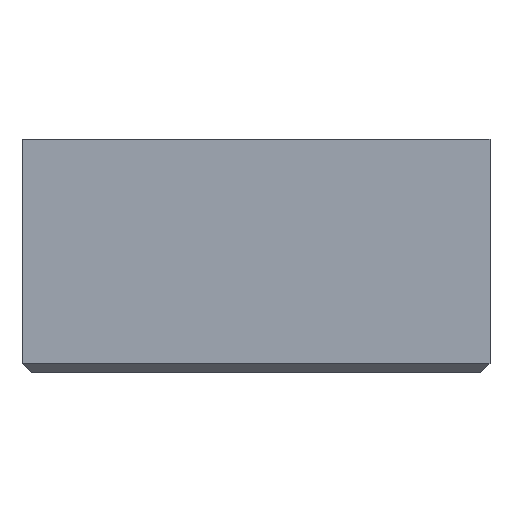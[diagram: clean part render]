
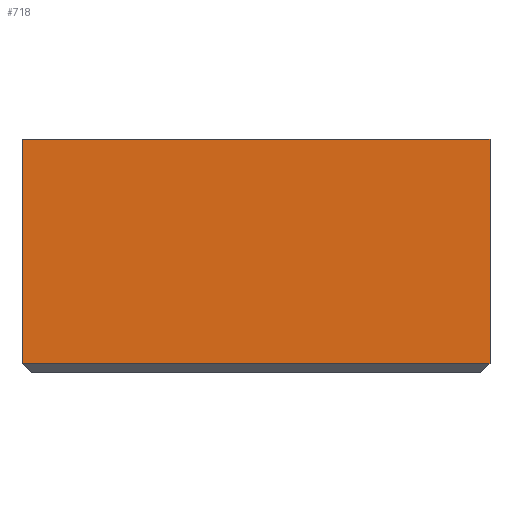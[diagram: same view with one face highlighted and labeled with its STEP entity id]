
A CAD part, left-side view. The second image highlights one B-rep face of the part: STEP entity #718.
In plain terms, the highlighted planar face has unit normal (-1, 0, 0).
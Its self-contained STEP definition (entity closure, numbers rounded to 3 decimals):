
#278=CARTESIAN_POINT('',(-4.765,-4.765,9.525));
#279=VERTEX_POINT('',#278);
#286=CARTESIAN_POINT('',(-4.765,-4.765,-2.675));
#287=VERTEX_POINT('',#286);
#288=CARTESIAN_POINT('',(-4.765,-4.765,-2.675));
#289=DIRECTION('',(0.0,0.0,1.0));
#290=VECTOR('',#289,12.2);
#291=LINE('',#288,#290);
#292=EDGE_CURVE('',#287,#279,#291,.T.);
#373=CARTESIAN_POINT('',(-4.765,20.635,9.525));
#374=VERTEX_POINT('',#373);
#381=CARTESIAN_POINT('',(-4.765,-4.765,9.525));
#382=DIRECTION('',(0.0,1.0,0.0));
#383=VECTOR('',#382,25.4);
#384=LINE('',#381,#383);
#385=EDGE_CURVE('',#279,#374,#384,.T.);
#564=CARTESIAN_POINT('',(-4.765,20.635,-2.675));
#565=VERTEX_POINT('',#564);
#566=CARTESIAN_POINT('',(-4.765,-4.765,-2.675));
#567=DIRECTION('',(0.0,1.0,0.0));
#568=VECTOR('',#567,25.4);
#569=LINE('',#566,#568);
#570=EDGE_CURVE('',#287,#565,#569,.T.);
#694=CARTESIAN_POINT('',(-4.765,20.635,-2.675));
#695=DIRECTION('',(0.0,0.0,1.0));
#696=VECTOR('',#695,12.2);
#697=LINE('',#694,#696);
#698=EDGE_CURVE('',#565,#374,#697,.T.);
#707=CARTESIAN_POINT('',(-4.765,-4.765,-3.175));
#708=DIRECTION('',(-1.0,0.0,0.0));
#709=DIRECTION('',(0.0,0.0,1.0));
#710=AXIS2_PLACEMENT_3D('',#707,#708,#709);
#711=PLANE('',#710);
#712=ORIENTED_EDGE('',*,*,#570,.F.);
#713=ORIENTED_EDGE('',*,*,#292,.T.);
#714=ORIENTED_EDGE('',*,*,#385,.T.);
#715=ORIENTED_EDGE('',*,*,#698,.F.);
#716=EDGE_LOOP('',(#712,#713,#714,#715));
#717=FACE_OUTER_BOUND('',#716,.T.);
#718=ADVANCED_FACE('',(#717),#711,.T.);
